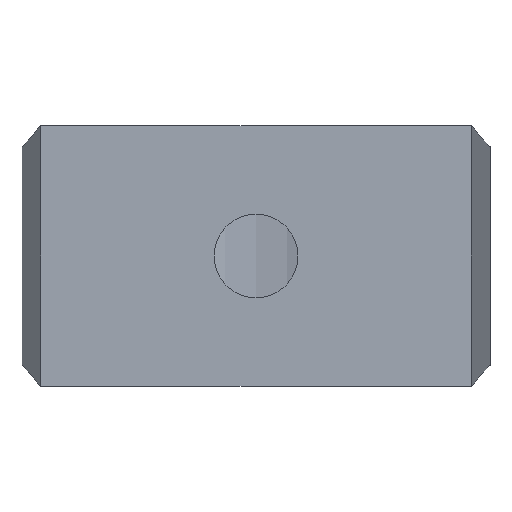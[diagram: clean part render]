
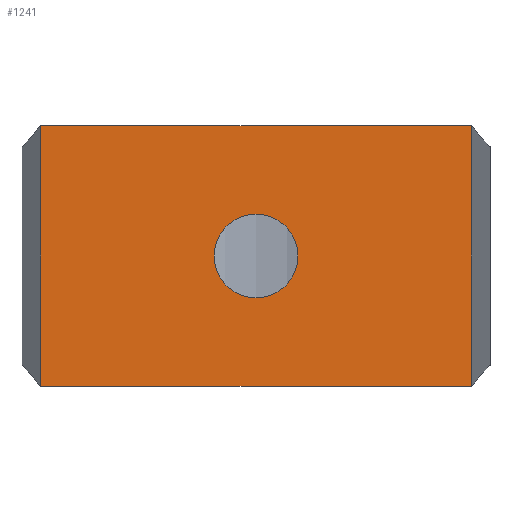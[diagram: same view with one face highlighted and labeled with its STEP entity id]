
A CAD part, front view. The second image highlights one B-rep face of the part: STEP entity #1241.
In plain terms, the highlighted planar face has unit normal (0, -1, 0).
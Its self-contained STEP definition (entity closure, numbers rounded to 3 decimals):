
#88 = EDGE_CURVE ( 'NONE', #1639, #1790, #563, .T. ) ;
#114 = CARTESIAN_POINT ( 'NONE',  ( 0., 0., 10.1 ) ) ;
#119 = ORIENTED_EDGE ( 'NONE', *, *, #88, .T. ) ;
#196 = VERTEX_POINT ( 'NONE', #603 ) ;
#395 = EDGE_LOOP ( 'NONE', ( #1372, #1459 ) ) ;
#529 = CARTESIAN_POINT ( 'NONE',  ( 16.7, 0., -10.1 ) ) ;
#563 = LINE ( 'NONE', #2961, #804 ) ;
#603 = CARTESIAN_POINT ( 'NONE',  ( -16.7, 0., -10.1 ) ) ;
#635 = DIRECTION ( 'NONE',  ( 1., 0., 0. ) ) ;
#665 = EDGE_CURVE ( 'NONE', #2230, #1523, #970, .T. ) ;
#787 = EDGE_CURVE ( 'NONE', #1639, #2874, #3605, .T. ) ;
#804 = VECTOR ( 'NONE', #3899, 1000. ) ;
#970 = CIRCLE ( 'NONE', #3313, 3.25 ) ;
#1160 = DIRECTION ( 'NONE',  ( 0., 1., 0. ) ) ;
#1175 = CARTESIAN_POINT ( 'NONE',  ( 0., 0., 0. ) ) ;
#1234 = CARTESIAN_POINT ( 'NONE',  ( 16.7, 0., 10.1 ) ) ;
#1241 = ADVANCED_FACE ( 'NONE', ( #2828, #2764 ), #1632, .T. ) ;
#1281 = CARTESIAN_POINT ( 'NONE',  ( -16.7, 0., 10.1 ) ) ;
#1322 = ORIENTED_EDGE ( 'NONE', *, *, #2337, .T. ) ;
#1372 = ORIENTED_EDGE ( 'NONE', *, *, #2093, .T. ) ;
#1402 = CARTESIAN_POINT ( 'NONE',  ( 0., 0., -10.1 ) ) ;
#1439 = DIRECTION ( 'NONE',  ( 0., 1., 0. ) ) ;
#1459 = ORIENTED_EDGE ( 'NONE', *, *, #665, .T. ) ;
#1481 = CIRCLE ( 'NONE', #2488, 3.25 ) ;
#1523 = VERTEX_POINT ( 'NONE', #2369 ) ;
#1540 = AXIS2_PLACEMENT_3D ( 'NONE', #114, #3687, #635 ) ;
#1632 = PLANE ( 'NONE',  #1540 ) ;
#1639 = VERTEX_POINT ( 'NONE', #1234 ) ;
#1694 = DIRECTION ( 'NONE',  ( 0., 0., -1. ) ) ;
#1695 = DIRECTION ( 'NONE',  ( -1., 0., 0. ) ) ;
#1790 = VERTEX_POINT ( 'NONE', #1281 ) ;
#1792 = CARTESIAN_POINT ( 'NONE',  ( 0., 0., 0. ) ) ;
#1862 = VECTOR ( 'NONE', #1695, 1000. ) ;
#2093 = EDGE_CURVE ( 'NONE', #1523, #2230, #1481, .T. ) ;
#2173 = VECTOR ( 'NONE', #2648, 1000. ) ;
#2230 = VERTEX_POINT ( 'NONE', #3269 ) ;
#2337 = EDGE_CURVE ( 'NONE', #1790, #196, #3509, .T. ) ;
#2369 = CARTESIAN_POINT ( 'NONE',  ( 0., 0., 3.25 ) ) ;
#2488 = AXIS2_PLACEMENT_3D ( 'NONE', #1792, #1160, #3652 ) ;
#2514 = ORIENTED_EDGE ( 'NONE', *, *, #3378, .F. ) ;
#2648 = DIRECTION ( 'NONE',  ( 0., 0., -1. ) ) ;
#2684 = DIRECTION ( 'NONE',  ( 0., 0., 1. ) ) ;
#2764 = FACE_OUTER_BOUND ( 'NONE', #3254, .T. ) ;
#2828 = FACE_BOUND ( 'NONE', #395, .T. ) ;
#2874 = VERTEX_POINT ( 'NONE', #529 ) ;
#2894 = ORIENTED_EDGE ( 'NONE', *, *, #787, .F. ) ;
#2944 = VECTOR ( 'NONE', #1694, 1000. ) ;
#2961 = CARTESIAN_POINT ( 'NONE',  ( 0., 0., 10.1 ) ) ;
#3038 = CARTESIAN_POINT ( 'NONE',  ( 16.7, 0., 10.1 ) ) ;
#3211 = CARTESIAN_POINT ( 'NONE',  ( -16.7, 0., 10.1 ) ) ;
#3254 = EDGE_LOOP ( 'NONE', ( #2514, #2894, #119, #1322 ) ) ;
#3269 = CARTESIAN_POINT ( 'NONE',  ( 0., 0., -3.25 ) ) ;
#3313 = AXIS2_PLACEMENT_3D ( 'NONE', #1175, #1439, #2684 ) ;
#3378 = EDGE_CURVE ( 'NONE', #2874, #196, #3892, .T. ) ;
#3509 = LINE ( 'NONE', #3211, #2944 ) ;
#3605 = LINE ( 'NONE', #3038, #2173 ) ;
#3652 = DIRECTION ( 'NONE',  ( 0., 0., 1. ) ) ;
#3687 = DIRECTION ( 'NONE',  ( 0., -1., 0. ) ) ;
#3892 = LINE ( 'NONE', #1402, #1862 ) ;
#3899 = DIRECTION ( 'NONE',  ( -1., 0., 0. ) ) ;
